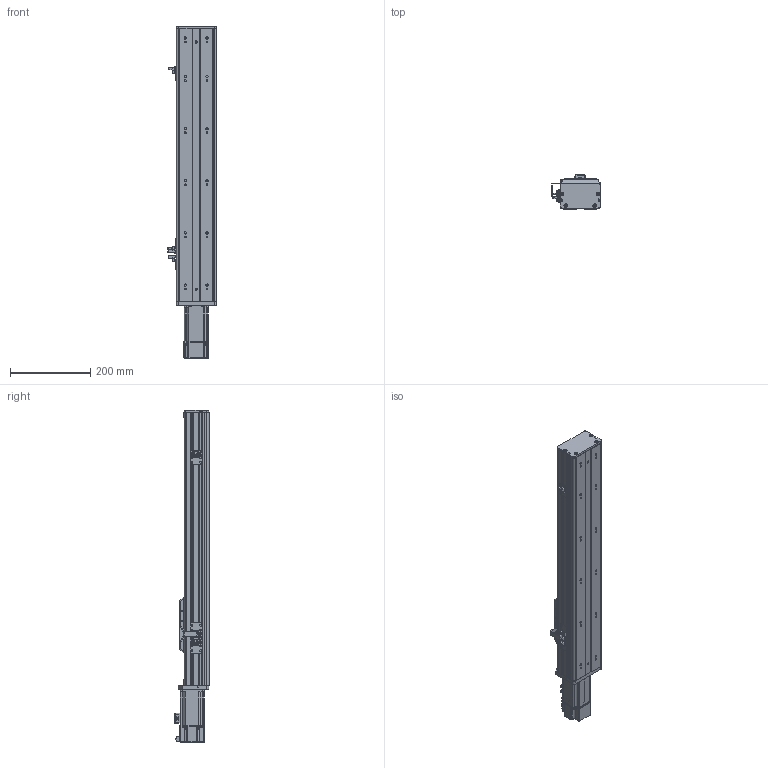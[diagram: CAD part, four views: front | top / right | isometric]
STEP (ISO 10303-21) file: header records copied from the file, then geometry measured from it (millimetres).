
FILE_DESCRIPTION (( 'STEP AP203' ), '1' );
FILE_NAME ('BOSW100-450-1610-1P-CM-M400W-O-S3（方程式2016）.step', '2020-10-10T06:32:43', ( '' ), ( '' ), 'SwSTEP 2.0', 'SolidWorks 2016', '' );
FILE_SCHEMA (( 'CONFIG_CONTROL_DESIGN' ));
Length unit declared in the file: millimetre
Products named in the file (13): BOSW&TW-100-俋离覜茼え; BOSW100-450-1610-1P-CM-M400W-O-S3（方程式2016）; BOSW-100-綴裔啣; 新结构AIMSW-100-1P-宽&高轨共用-滑动座上组件; BOSW-100-CM-宽轨-三菱M200W&400W马达板(新结构); S400W(SMA-L040); BOSW-100-1P-CM-宽轨-侧板-450客户图纸; 放大器内置U型微型光电传感器PM-L65; BOSW&TW-100-1P-賑雄釱欶; BOSW-100-1P-CM-宽轨-钢带-450客户图纸; 俋境嫖覜嘐隅啣; BOSW&TW-100-詩湍揤沭(陔賦凳); BOSW-100-1P-CM-450諦誧芞
Assembly tree (18 placements, depth 2):
  BOSW100-450-1610-1P-CM-M400W-O-S3（方程式2016）
    BOSW-100-1P-CM-450諦誧芞
    BOSW-100-綴裔啣
    新结构AIMSW-100-1P-宽&高轨共用-滑动座上组件
    S400W(SMA-L040)
    BOSW&TW-100-詩湍揤沭(陔賦凳)  x2
    BOSW&TW-100-1P-賑雄釱欶
    BOSW&TW-100-俋离覜茼え
    俋境嫖覜嘐隅啣  x3
    放大器内置U型微型光电传感器PM-L65  x3
    BOSW-100-CM-宽轨-三菱M200W&400W马达板(新结构)
    BOSW-100-1P-CM-宽轨-侧板-450客户图纸  x2
    BOSW-100-1P-CM-宽轨-钢带-450客户图纸
Bounding box: 120.9 x 85.5 x 827.8 mm (x, y, z)
Volume: 1645746.8 mm3; surface area: 745946.7 mm2
Topology: 18 solids, 18 shells, 2495 faces, 6576 edges, 4193 vertices
Faces by surface type: plane 1222, cylinder 789, bspline 271, cone 165, torus 36, sphere 12
Entity records: 68108 total; most frequent: CARTESIAN_POINT 20534, ORIENTED_EDGE 9692, DIRECTION 9404, EDGE_CURVE 4846, AXIS2_PLACEMENT_3D 3346, VERTEX_POINT 3095, LINE 2712, VECTOR 2712
